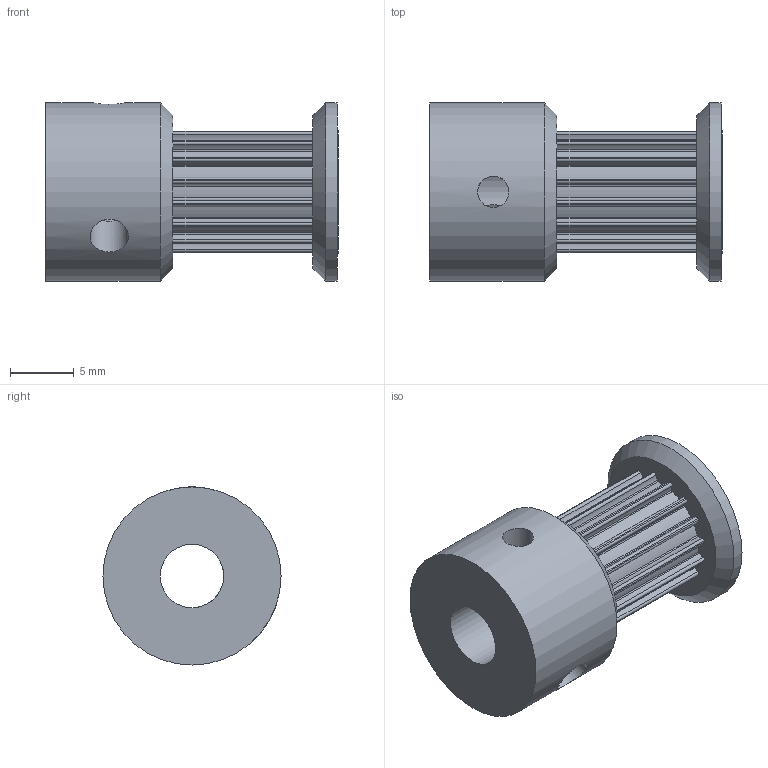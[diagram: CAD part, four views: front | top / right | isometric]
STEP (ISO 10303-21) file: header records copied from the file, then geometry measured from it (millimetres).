
FILE_DESCRIPTION(('STEP AP214'), '1');
FILE_NAME('仃桠 珞狩囹 BSY-16-S2M-10-C-P5', '', ('UNSPECIFIED'), ('UNSPECIFIED'), 'C3D Converter', 'C3D Toolkit', '');
FILE_SCHEMA(('AUTOMOTIVE_DESIGN { 1 0 10303 214 3 1 1}'));
Length unit declared in the file: millimetre
Bounding box: 23 x 14 x 14 mm (x, y, z)
Volume: 1928.6 mm3; surface area: 1859 mm2
Topology: 1 solids, 1 shells, 141 faces, 411 edges, 273 vertices
Faces by surface type: cylinder 134, plane 5, cone 2
Full cylindrical faces by diameter (mm): 2.459 x1, 3 x1, 5 x1, 9.68 x1, 14 x2
Entity records: 6297 total; most frequent: CARTESIAN_POINT 1176, DIRECTION 944, ORIENTED_EDGE 802, AXIS2_PLACEMENT_3D 408, EDGE_CURVE 401, VERTEX_POINT 273, CIRCLE 266, EDGE_LOOP 158
